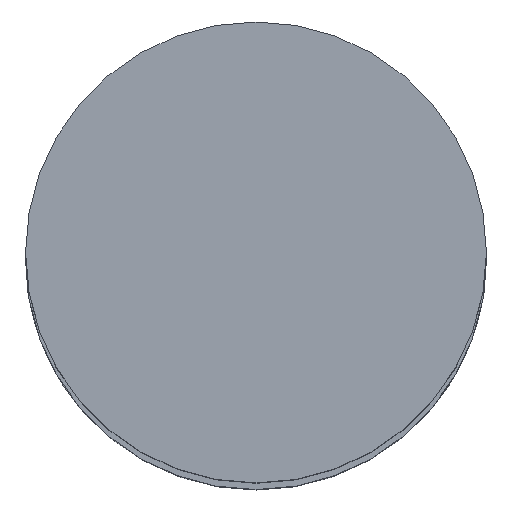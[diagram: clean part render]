
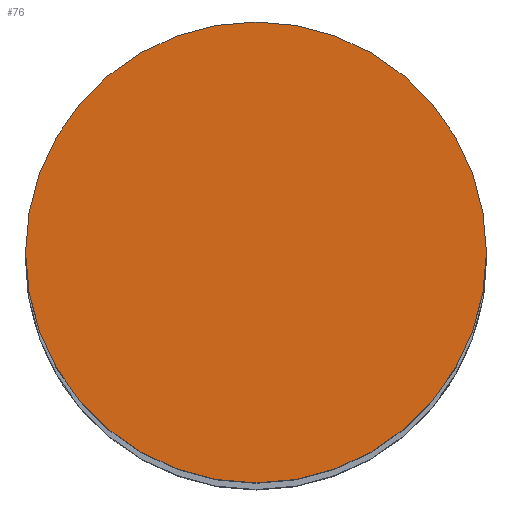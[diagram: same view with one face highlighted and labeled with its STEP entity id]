
A CAD part, top view. The second image highlights one B-rep face of the part: STEP entity #76.
In plain terms, the highlighted planar face has unit normal (0, 0, 1).
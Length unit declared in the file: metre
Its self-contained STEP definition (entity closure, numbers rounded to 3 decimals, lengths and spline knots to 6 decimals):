
#76=ADVANCED_FACE('25:217',(#156),#157,.T.);
#156=FACE_OUTER_BOUND('',#245,.T.);
#157=PLANE('',#246);
#245=EDGE_LOOP('',(#371,#372));
#246=AXIS2_PLACEMENT_3D('',#373,#374,#375);
#371=ORIENTED_EDGE('',*,*,#525,.F.);
#372=ORIENTED_EDGE('',*,*,#514,.F.);
#373=CARTESIAN_POINT('',(0.0,0.0,2.924));
#374=DIRECTION('',(0.0,0.0,1.0));
#375=DIRECTION('',(1.0,0.0,0.0));
#514=EDGE_CURVE('',#617,#619,#620,.F.);
#525=EDGE_CURVE('',#619,#617,#633,.F.);
#617=VERTEX_POINT('',#746);
#619=VERTEX_POINT('',#749);
#620=CIRCLE('',#750,0.0155);
#633=CIRCLE('',#768,0.0155);
#746=CARTESIAN_POINT('',(0.015408,0.000095,2.924));
#749=CARTESIAN_POINT('',(-0.015592,0.000095,2.924));
#750=AXIS2_PLACEMENT_3D('',#877,#878,#879);
#768=AXIS2_PLACEMENT_3D('',#891,#892,#893);
#877=CARTESIAN_POINT('',(-0.000092,0.000095,2.924));
#878=DIRECTION('',(0.0,0.0,1.0));
#879=DIRECTION('',(1.0,0.0,0.0));
#891=CARTESIAN_POINT('',(-0.000092,0.000095,2.924));
#892=DIRECTION('',(0.0,0.0,1.0));
#893=DIRECTION('',(1.0,0.0,0.0));
